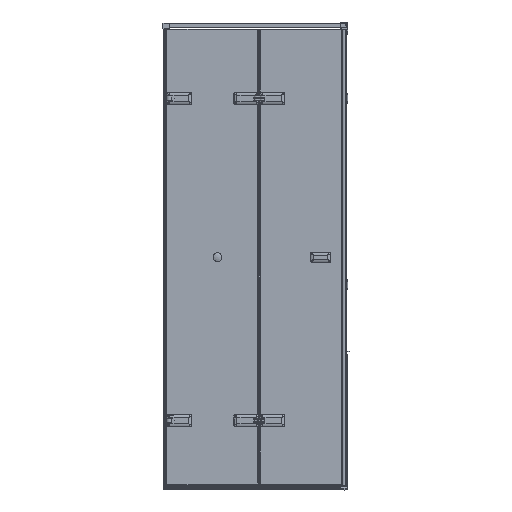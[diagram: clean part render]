
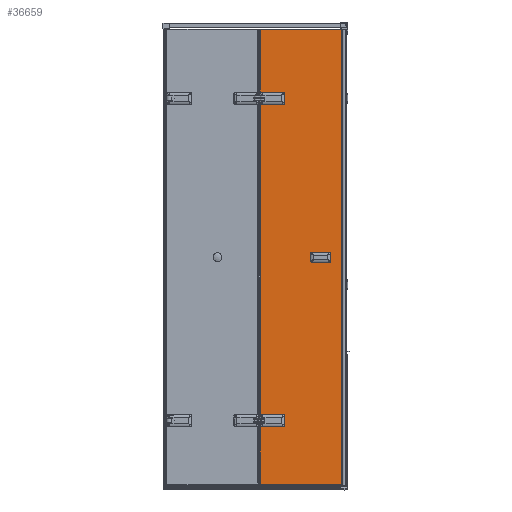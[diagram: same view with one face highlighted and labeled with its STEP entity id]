
A CAD part, front view. The second image highlights one B-rep face of the part: STEP entity #36659.
In plain terms, the highlighted planar face has unit normal (0, -1, 0).
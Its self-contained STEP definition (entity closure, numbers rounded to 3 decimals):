
#1745=LINE($,#70300,#5046);
#1749=LINE($,#70312,#5050);
#1753=LINE($,#70323,#5054);
#2215=LINE($,#72544,#5516);
#2219=LINE($,#72556,#5520);
#2223=LINE($,#72567,#5524);
#3004=LINE($,#75729,#6305);
#3137=LINE($,#76150,#6438);
#3224=LINE($,#76364,#6525);
#3243=LINE($,#76415,#6544);
#3244=LINE($,#76417,#6545);
#3245=LINE($,#76418,#6546);
#5046=VECTOR($,#43719,96.);
#5050=VECTOR($,#43731,42.);
#5054=VECTOR($,#43743,96.);
#5516=VECTOR($,#45107,96.);
#5520=VECTOR($,#45119,42.);
#5524=VECTOR($,#45131,96.);
#6305=VECTOR($,#47162,353.147);
#6438=VECTOR($,#47535,1980.);
#6525=VECTOR($,#47746,1354.861);
#6544=VECTOR($,#47813,257.43);
#6545=VECTOR($,#47814,353.147);
#6546=VECTOR($,#47815,277.43);
#8248=PLANE($,#39634);
#9401=FACE_BOUND($,#13106,.T.);
#9402=FACE_BOUND($,#13107,.T.);
#10931=FACE_OUTER_BOUND($,#13105,.T.);
#13105=EDGE_LOOP($,(#30418,#30419,#30420,#30421,#30422,#30423,#30424,#30425,
#30426,#30427,#30428,#30429,#30430,#30431,#30432,#30433,#30434,#30435,#30436,
#30437));
#13106=EDGE_LOOP($,(#30438));
#13107=EDGE_LOOP($,(#30439));
#14178=CIRCLE($,#38254,5.);
#14181=CIRCLE($,#38258,5.);
#14221=CIRCLE($,#38338,5.);
#14223=CIRCLE($,#38342,5.);
#14364=CIRCLE($,#38715,5.);
#14367=CIRCLE($,#38719,5.);
#14406=CIRCLE($,#38797,5.);
#14408=CIRCLE($,#38801,5.);
#14687=CIRCLE($,#39635,5.5);
#14688=CIRCLE($,#39636,5.5);
#16076=VERTEX_POINT($,#69952);
#16077=VERTEX_POINT($,#69961);
#16080=VERTEX_POINT($,#69968);
#16083=VERTEX_POINT($,#69981);
#16194=VERTEX_POINT($,#70299);
#16196=VERTEX_POINT($,#70305);
#16198=VERTEX_POINT($,#70311);
#16200=VERTEX_POINT($,#70317);
#16556=VERTEX_POINT($,#72200);
#16557=VERTEX_POINT($,#72209);
#16560=VERTEX_POINT($,#72216);
#16563=VERTEX_POINT($,#72229);
#16673=VERTEX_POINT($,#72543);
#16675=VERTEX_POINT($,#72549);
#16677=VERTEX_POINT($,#72555);
#16679=VERTEX_POINT($,#72561);
#17350=VERTEX_POINT($,#75701);
#17351=VERTEX_POINT($,#75716);
#17473=VERTEX_POINT($,#76148);
#17547=VERTEX_POINT($,#76416);
#17548=VERTEX_POINT($,#76419);
#17549=VERTEX_POINT($,#76421);
#19781=EDGE_CURVE($,#16077,#16076,#14178,.T.);
#19788=EDGE_CURVE($,#16080,#16083,#14181,.T.);
#19947=EDGE_CURVE($,#16083,#16194,#1745,.T.);
#19950=EDGE_CURVE($,#16194,#16196,#14221,.T.);
#19953=EDGE_CURVE($,#16196,#16198,#1749,.T.);
#19956=EDGE_CURVE($,#16198,#16200,#14223,.T.);
#19959=EDGE_CURVE($,#16200,#16077,#1753,.T.);
#20515=EDGE_CURVE($,#16557,#16556,#14364,.T.);
#20522=EDGE_CURVE($,#16560,#16563,#14367,.T.);
#20679=EDGE_CURVE($,#16563,#16673,#2215,.T.);
#20682=EDGE_CURVE($,#16673,#16675,#14406,.T.);
#20685=EDGE_CURVE($,#16675,#16677,#2219,.T.);
#20688=EDGE_CURVE($,#16677,#16679,#14408,.T.);
#20691=EDGE_CURVE($,#16679,#16557,#2223,.T.);
#21760=EDGE_CURVE($,#17350,#17351,#3004,.T.);
#21955=EDGE_CURVE($,#17351,#17473,#3137,.T.);
#22065=EDGE_CURVE($,#16556,#16080,#3224,.T.);
#22090=EDGE_CURVE($,#16076,#17350,#3243,.T.);
#22091=EDGE_CURVE($,#17547,#17473,#3244,.T.);
#22092=EDGE_CURVE($,#17547,#16560,#3245,.T.);
#22093=EDGE_CURVE($,#17548,#17548,#14687,.T.);
#22094=EDGE_CURVE($,#17549,#17549,#14688,.T.);
#30418=ORIENTED_EDGE($,*,*,#19781,.T.);
#30419=ORIENTED_EDGE($,*,*,#22090,.T.);
#30420=ORIENTED_EDGE($,*,*,#21760,.T.);
#30421=ORIENTED_EDGE($,*,*,#21955,.T.);
#30422=ORIENTED_EDGE($,*,*,#22091,.F.);
#30423=ORIENTED_EDGE($,*,*,#22092,.T.);
#30424=ORIENTED_EDGE($,*,*,#20522,.T.);
#30425=ORIENTED_EDGE($,*,*,#20679,.T.);
#30426=ORIENTED_EDGE($,*,*,#20682,.T.);
#30427=ORIENTED_EDGE($,*,*,#20685,.T.);
#30428=ORIENTED_EDGE($,*,*,#20688,.T.);
#30429=ORIENTED_EDGE($,*,*,#20691,.T.);
#30430=ORIENTED_EDGE($,*,*,#20515,.T.);
#30431=ORIENTED_EDGE($,*,*,#22065,.T.);
#30432=ORIENTED_EDGE($,*,*,#19788,.T.);
#30433=ORIENTED_EDGE($,*,*,#19947,.T.);
#30434=ORIENTED_EDGE($,*,*,#19950,.T.);
#30435=ORIENTED_EDGE($,*,*,#19953,.T.);
#30436=ORIENTED_EDGE($,*,*,#19956,.T.);
#30437=ORIENTED_EDGE($,*,*,#19959,.T.);
#30438=ORIENTED_EDGE($,*,*,#22093,.T.);
#30439=ORIENTED_EDGE($,*,*,#22094,.T.);
#36659=ADVANCED_FACE($,(#10931,#9401,#9402),#8248,.T.);
#38254=AXIS2_PLACEMENT_3D($,#69962,#43435,#43436);
#38258=AXIS2_PLACEMENT_3D($,#69983,#43446,#43447);
#38338=AXIS2_PLACEMENT_3D($,#70306,#43724,#43725);
#38342=AXIS2_PLACEMENT_3D($,#70318,#43736,#43737);
#38715=AXIS2_PLACEMENT_3D($,#72210,#44828,#44829);
#38719=AXIS2_PLACEMENT_3D($,#72231,#44839,#44840);
#38797=AXIS2_PLACEMENT_3D($,#72550,#45112,#45113);
#38801=AXIS2_PLACEMENT_3D($,#72562,#45124,#45125);
#39634=AXIS2_PLACEMENT_3D($,#76414,#47811,#47812);
#39635=AXIS2_PLACEMENT_3D($,#76420,#47816,#47817);
#39636=AXIS2_PLACEMENT_3D($,#76422,#47818,#47819);
#43435=DIRECTION('center_axis',(0.,1.,0.));
#43436=DIRECTION('ref_axis',(1.,0.,0.));
#43446=DIRECTION('center_axis',(0.,1.,0.));
#43447=DIRECTION('ref_axis',(0.,0.,
-1.));
#43719=DIRECTION($,(1.,0.,0.));
#43724=DIRECTION('center_axis',(0.,1.,0.));
#43725=DIRECTION('ref_axis',(-1.,0.,0.));
#43731=DIRECTION($,(0.,0.,-1.));
#43736=DIRECTION('center_axis',(0.,1.,0.));
#43737=DIRECTION('ref_axis',(0.,0.,
1.));
#43743=DIRECTION($,(-1.,0.,0.));
#44828=DIRECTION('center_axis',(0.,1.,0.));
#44829=DIRECTION('ref_axis',(1.,0.,0.));
#44839=DIRECTION('center_axis',(0.,1.,0.));
#44840=DIRECTION('ref_axis',(0.,0.,
-1.));
#45107=DIRECTION($,(1.,0.,0.));
#45112=DIRECTION('center_axis',(0.,1.,0.));
#45113=DIRECTION('ref_axis',(-1.,0.,0.));
#45119=DIRECTION($,(0.,0.,-1.));
#45124=DIRECTION('center_axis',(0.,1.,0.));
#45125=DIRECTION('ref_axis',(0.,0.,
1.));
#45131=DIRECTION($,(-1.,0.,0.));
#47162=DIRECTION($,(1.,0.,0.));
#47535=DIRECTION($,(0.,0.,1.));
#47746=DIRECTION($,(0.,0.,-1.));
#47811=DIRECTION('center_axis',(0.,-1.,0.));
#47812=DIRECTION('ref_axis',(1.,0.,0.));
#47813=DIRECTION($,(0.,0.,-1.));
#47814=DIRECTION($,(1.,0.,0.));
#47815=DIRECTION($,(0.,0.,-1.));
#47816=DIRECTION('center_axis',(0.,1.,0.));
#47817=DIRECTION('ref_axis',(-1.,0.,0.));
#47818=DIRECTION('center_axis',(0.,1.,0.));
#47819=DIRECTION('ref_axis',(-1.,0.,0.));
#69952=CARTESIAN_POINT('',(702.557,-54.144,-236.625));
#69961=CARTESIAN_POINT('',(707.305,-54.144,-240.055));
#69962=CARTESIAN_POINT('Origin',(707.305,-54.144,-235.055));
#69968=CARTESIAN_POINT('',(702.557,-54.144,-191.486));
#69981=CARTESIAN_POINT('',(707.305,-54.144,-188.055));
#69983=CARTESIAN_POINT('Origin',(707.305,-54.144,-193.055));
#70299=CARTESIAN_POINT('',(803.305,-54.144,-188.055));
#70300=CARTESIAN_POINT($,(752.305,-54.144,-188.055));
#70305=CARTESIAN_POINT('',(808.305,-54.144,-193.055));
#70306=CARTESIAN_POINT('Origin',(803.305,-54.144,-193.055));
#70311=CARTESIAN_POINT('',(808.305,-54.144,-235.055));
#70312=CARTESIAN_POINT($,(808.305,-54.144,-364.555));
#70317=CARTESIAN_POINT('',(803.305,-54.144,-240.055));
#70318=CARTESIAN_POINT('Origin',(803.305,-54.144,-235.055));
#70323=CARTESIAN_POINT($,(704.305,-54.144,-240.055));
#72200=CARTESIAN_POINT('',(702.557,-54.144,1163.375));
#72209=CARTESIAN_POINT('',(707.305,-54.144,1159.945));
#72210=CARTESIAN_POINT('Origin',(707.305,-54.144,1164.945));
#72216=CARTESIAN_POINT('',(702.557,-54.144,1208.514));
#72229=CARTESIAN_POINT('',(707.305,-54.144,1211.945));
#72231=CARTESIAN_POINT('Origin',(707.305,-54.144,1206.945));
#72543=CARTESIAN_POINT('',(803.305,-54.144,1211.945));
#72544=CARTESIAN_POINT($,(752.305,-54.144,1211.945));
#72549=CARTESIAN_POINT('',(808.305,-54.144,1206.945));
#72550=CARTESIAN_POINT('Origin',(803.305,-54.144,1206.945));
#72555=CARTESIAN_POINT('',(808.305,-54.144,1164.945));
#72556=CARTESIAN_POINT($,(808.305,-54.144,335.445));
#72561=CARTESIAN_POINT('',(803.305,-54.144,1159.945));
#72562=CARTESIAN_POINT('Origin',(803.305,-54.144,1164.945));
#72567=CARTESIAN_POINT($,(704.305,-54.144,1159.945));
#75701=CARTESIAN_POINT('',(702.557,-54.144,-494.055));
#75716=CARTESIAN_POINT('',(1055.705,-54.144,-494.055));
#75729=CARTESIAN_POINT($,(701.305,-54.144,-494.055));
#76148=CARTESIAN_POINT('',(1055.705,-54.144,1485.945));
#76150=CARTESIAN_POINT($,(1055.705,-54.144,-494.055));
#76364=CARTESIAN_POINT($,(702.557,-54.144,-204.055));
#76414=CARTESIAN_POINT('Origin',(701.305,-54.144,-494.055));
#76415=CARTESIAN_POINT($,(702.557,-54.144,-494.055));
#76416=CARTESIAN_POINT('',(702.557,-54.144,1485.945));
#76417=CARTESIAN_POINT($,(701.305,-54.144,1485.945));
#76418=CARTESIAN_POINT($,(702.557,-54.144,1195.945));
#76419=CARTESIAN_POINT('',(995.805,-54.144,509.945));
#76420=CARTESIAN_POINT('Origin',(990.305,-54.144,509.945));
#76421=CARTESIAN_POINT('',(995.805,-54.144,481.945));
#76422=CARTESIAN_POINT('Origin',(990.305,-54.144,481.945));
